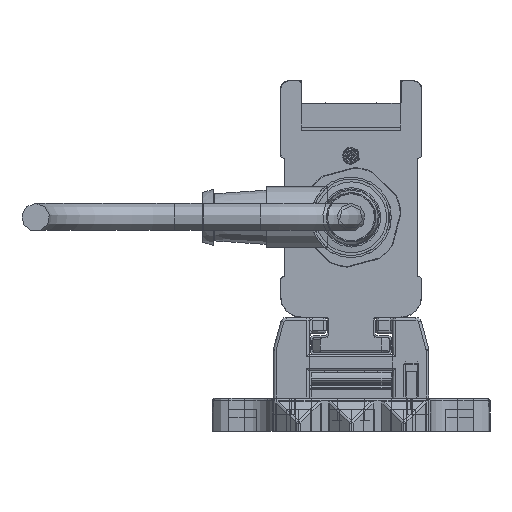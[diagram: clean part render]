
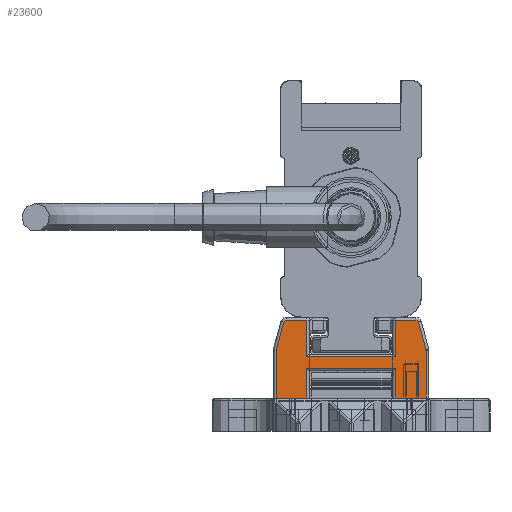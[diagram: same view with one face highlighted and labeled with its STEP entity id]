
A CAD part, left-side view. The second image highlights one B-rep face of the part: STEP entity #23600.
In plain terms, the highlighted planar face has unit normal (-1, 0, 0).
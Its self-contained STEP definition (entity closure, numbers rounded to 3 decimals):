
#23600=ADVANCED_FACE('', (#23610), #23620, .T.);
#189050=AXIS2_PLACEMENT_3D('Ax2Pl3d', #189060, #189070, #189080);
#189290=AXIS2_PLACEMENT_3D('Ax2Pl3d', #189300, #189310, #189320);
#194170=AXIS2_PLACEMENT_3D('Ax2Pl3d', #194180, #194190, #194200);
#199250=AXIS2_PLACEMENT_3D('Ax2Pl3d', #199260, #199270, #199280);
#208930=AXIS2_PLACEMENT_3D('Ax2Pl3d', #208940, #208950, #208960);
#844600=CARTESIAN_POINT('', (-747.669,-6246.345,
331.37));
#189060=CARTESIAN_POINT('HicPkt', (-747.669,-6245.379,
331.111));
#844610=CARTESIAN_POINT('', (-747.669,-6246.379,331.111)
);
#844620=CARTESIAN_POINT('', (-747.669,-6245.037,
336.255));
#844640=CARTESIAN_POINT('', (-747.669,-6245.037,
336.255));
#844670=CARTESIAN_POINT('', (-747.669,-6244.554,
336.625));
#189300=CARTESIAN_POINT('HicPkt', (-747.669,-6244.554,
336.125));
#844890=CARTESIAN_POINT('', (-747.669,-6246.379,322.625)
);
#844900=CARTESIAN_POINT('', (-747.669,-6240.881,322.625)
);
#844910=CARTESIAN_POINT('', (-747.669,-6240.881,322.625)
);
#844990=CARTESIAN_POINT('', (-747.669,-6224.881,322.625)
);
#845000=CARTESIAN_POINT('', (-747.669,-6219.383,322.625)
);
#845010=CARTESIAN_POINT('', (-747.669,-6219.383,322.625)
);
#194180=CARTESIAN_POINT('HicPkt', (-747.669,-6221.209,
336.125));
#847480=CARTESIAN_POINT('', (-747.669,-6220.726,
336.255));
#847490=CARTESIAN_POINT('', (-747.669,-6221.209,
336.625));
#847500=CARTESIAN_POINT('', (-747.669,-6240.881,
330.025));
#847510=CARTESIAN_POINT('', (-747.669,-6224.881,
330.025));
#847520=CARTESIAN_POINT('', (-747.669,-6240.881,
330.025));
#847680=CARTESIAN_POINT('', (-747.669,-6240.881,
328.005));
#847690=CARTESIAN_POINT('', (-747.669,-6224.881,
328.005));
#847700=CARTESIAN_POINT('', (-747.669,-6224.881,
328.005));
#847710=CARTESIAN_POINT('', (-747.669,-6240.881,
328.005));
#847730=CARTESIAN_POINT('', (-747.669,-6224.881,322.625)
);
#847740=CARTESIAN_POINT('', (-747.669,-6224.881,
330.025));
#847750=CARTESIAN_POINT('', (-747.669,-6224.881,
336.625));
#848600=CARTESIAN_POINT('', (-747.669,-6224.881,
336.625));
#848610=CARTESIAN_POINT('', (-747.669,-6220.726,
336.255));
#848620=CARTESIAN_POINT('', (-747.669,-6219.417,
331.37));
#848810=CARTESIAN_POINT('', (-747.669,-6219.383,331.111)
);
#848820=CARTESIAN_POINT('', (-747.669,-6219.383,331.111)
);
#199260=CARTESIAN_POINT('HicPkt', (-747.669,-6220.383,
331.111));
#849630=CARTESIAN_POINT('', (-747.669,-6246.379,331.111)
);
#208940=CARTESIAN_POINT('HicPkt', (-747.669,-6244.554,
336.625));
#851430=CARTESIAN_POINT('', (-747.669,-6240.881,
336.625));
#851440=CARTESIAN_POINT('', (-747.669,-6240.881,
336.625));
#851450=CARTESIAN_POINT('', (-747.669,-6240.881,
336.625));
#981330=CIRCLE('Circle', #189050, 1.);
#981370=CIRCLE('Circle', #189290, 0.5);
#981950=CIRCLE('Circle', #194170, 0.5);
#982480=CIRCLE('Circle', #199250, 1.);
#189070=DIRECTION('Axis', (-1.,0.,
0.));
#189080=DIRECTION('RefDirection', (0.,
0.,-1.));
#1367870=DIRECTION('', (0.,0.259,
0.966));
#189310=DIRECTION('Axis', (-1.,0.,
0.));
#189320=DIRECTION('RefDirection', (0.,
0.,-1.));
#1367980=DIRECTION('', (0.,1.,0.));
#1368020=DIRECTION('', (0.,1.,0.));
#194190=DIRECTION('Axis', (1.,0.,
0.));
#194200=DIRECTION('RefDirection', (0.,
0.,-1.));
#1369210=DIRECTION('', (0.,-1.,0.));
#1369310=DIRECTION('', (0.,1.,0.));
#1369320=DIRECTION('', (0.,0.,1.));
#1369340=DIRECTION('', (0.,0.,-1.));
#1369350=DIRECTION('', (0.,0.,-1.));
#1369780=DIRECTION('', (0.,-1.,0.))
;
#1369790=DIRECTION('', (0.,-0.259,0.966));
#1369880=DIRECTION('', (0.,0.,1.));
#199270=DIRECTION('Axis', (1.,0.,
0.));
#199280=DIRECTION('RefDirection', (0.,
0.,-1.));
#1370250=DIRECTION('', (0.,0.,1.));
#208950=DIRECTION('Axis', (-1.,0.,
0.));
#208960=DIRECTION('RefDirection', (0.,
0.,-1.));
#1371090=DIRECTION('', (0.,1.,0.));
#1371100=DIRECTION('', (0.,0.,1.));
#1456860=EDGE_CURVE('', #1456870, #1456850, #981330, .T.);
#1456920=EDGE_CURVE('', #1456850, #1456900, #1456930, .T.);
#1456990=EDGE_CURVE('', #1456900, #1456980, #981370, .T.);
#1457440=EDGE_CURVE('', #1457430, #1457450, #1457460, .T.);
#1457600=EDGE_CURVE('', #1457590, #1457610, #1457620, .T.);
#1461960=EDGE_CURVE('', #1461970, #1461980, #981950, .T.);
#1462010=EDGE_CURVE('', #1462020, #1462030, #1462040, .T.);
#1462380=EDGE_CURVE('', #1462360, #1462390, #1462400, .T.);
#1462430=EDGE_CURVE('', #1457450, #1462360, #1462440, .T.);
#1462470=EDGE_CURVE('', #1462390, #1457590, #1462480, .T.);
#1462490=EDGE_CURVE('', #1462500, #1462020, #1462510, .T.);
#1464330=EDGE_CURVE('', #1461980, #1462500, #1464340, .T.);
#1464400=EDGE_CURVE('', #1464410, #1461970, #1464420, .T.);
#1464840=EDGE_CURVE('', #1457610, #1464850, #1464860, .T.);
#1464880=EDGE_CURVE('', #1464850, #1464410, #982480, .T.);
#1466590=EDGE_CURVE('', #1457430, #1456870, #1466600, .T.);
#1470400=EDGE_CURVE('', #1456980, #1470410, #1470420, .T.);
#1470430=EDGE_CURVE('', #1462030, #1470410, #1470440, .T.);
#1750440=EDGE_LOOP('Edge_loop', (#1750450,#1750460,#1750470,#1750480,
#1750490,#1750500,#1750510,#1750520,#1750530,#1750540,#1750550,
#1750560,#1750570,#1750580,#1750590,#1750600,#1750610,#1750620));
#23610=FACE_OUTER_BOUND('Face_outer_bound', #1750440, .T.);
#1456930=LINE('Line', #844640, #2017940);
#1457460=LINE('Line', #844900, #2018050);
#1457620=LINE('Line', #845000, #2018090);
#1462040=LINE('Line', #847500, #2019280);
#1462400=LINE('Line', #847690, #2019380);
#1462440=LINE('Line', #847710, #2019390);
#1462480=LINE('Line', #847730, #2019410);
#1462510=LINE('Line', #847740, #2019420);
#1464340=LINE('Line', #848600, #2019850);
#1464420=LINE('Line', #848610, #2019860);
#1464860=LINE('Line', #848810, #2019950);
#1466600=LINE('Line', #849630, #2020320);
#1470420=LINE('Line', #851430, #2021160);
#1470440=LINE('Line', #851450, #2021170);
#1750450=ORIENTED_EDGE('', *, *, #1470400, .T.);
#1750460=ORIENTED_EDGE('', *, *, #1470430, .F.);
#1750470=ORIENTED_EDGE('', *, *, #1462010, .F.);
#1750480=ORIENTED_EDGE('', *, *, #1462490, .F.);
#1750490=ORIENTED_EDGE('', *, *, #1464330, .F.);
#1750500=ORIENTED_EDGE('', *, *, #1461960, .F.);
#1750510=ORIENTED_EDGE('', *, *, #1464400, .F.);
#1750520=ORIENTED_EDGE('', *, *, #1464880, .F.);
#1750530=ORIENTED_EDGE('', *, *, #1464840, .F.);
#1750540=ORIENTED_EDGE('', *, *, #1457600, .F.);
#1750550=ORIENTED_EDGE('', *, *, #1462470, .F.);
#1750560=ORIENTED_EDGE('', *, *, #1462380, .F.);
#1750570=ORIENTED_EDGE('', *, *, #1462430, .F.);
#1750580=ORIENTED_EDGE('', *, *, #1457440, .F.);
#1750590=ORIENTED_EDGE('', *, *, #1466590, .T.);
#1750600=ORIENTED_EDGE('', *, *, #1456860, .T.);
#1750610=ORIENTED_EDGE('', *, *, #1456920, .T.);
#1750620=ORIENTED_EDGE('', *, *, #1456990, .T.);
#23620=PLANE('Plane', #208930);
#2017940=VECTOR('', #1367870, 5.057);
#2018050=VECTOR('', #1367980, 5.498);
#2018090=VECTOR('', #1368020, 5.498);
#2019280=VECTOR('', #1369210, 16.);
#2019380=VECTOR('', #1369310, 16.);
#2019390=VECTOR('', #1369320, 5.38);
#2019410=VECTOR('', #1369340, 5.38);
#2019420=VECTOR('', #1369350, 6.6);
#2019850=VECTOR('', #1369780, 3.672);
#2019860=VECTOR('', #1369790, 5.057);
#2019950=VECTOR('', #1369880, 8.486);
#2020320=VECTOR('', #1370250, 8.486);
#2021160=VECTOR('', #1371090, 3.672);
#2021170=VECTOR('', #1371100, 6.6);
#1456850=VERTEX_POINT('', #844600);
#1456870=VERTEX_POINT('', #844610);
#1456900=VERTEX_POINT('', #844620);
#1456980=VERTEX_POINT('', #844670);
#1457430=VERTEX_POINT('', #844890);
#1457450=VERTEX_POINT('', #844910);
#1457590=VERTEX_POINT('', #844990);
#1457610=VERTEX_POINT('', #845010);
#1461970=VERTEX_POINT('', #847480);
#1461980=VERTEX_POINT('', #847490);
#1462020=VERTEX_POINT('', #847510);
#1462030=VERTEX_POINT('', #847520);
#1462360=VERTEX_POINT('', #847680);
#1462390=VERTEX_POINT('', #847700);
#1462500=VERTEX_POINT('', #847750);
#1464410=VERTEX_POINT('', #848620);
#1464850=VERTEX_POINT('', #848820);
#1470410=VERTEX_POINT('', #851440);
